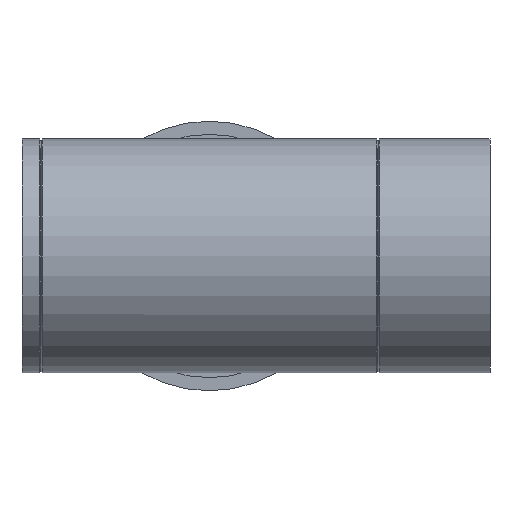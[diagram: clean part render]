
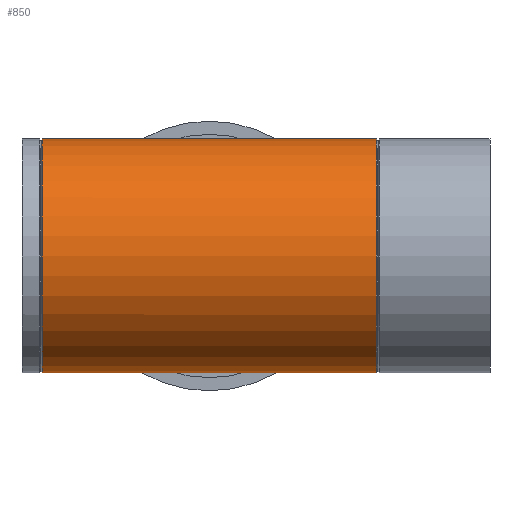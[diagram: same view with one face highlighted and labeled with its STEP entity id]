
A CAD part, left-side view. The second image highlights one B-rep face of the part: STEP entity #850.
In plain terms, the highlighted cylindrical face has radius 62.5 mm (diameter 125 mm), a full revolution.
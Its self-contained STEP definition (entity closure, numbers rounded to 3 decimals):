
#127=B_SPLINE_CURVE_WITH_KNOTS($,3,(#1335,#1336,#1337,#1338,#1339,#1340,
#1341,#1342,#1343,#1344,#1345,#1346,#1347,#1348,#1349,#1350,#1351,#1352,
#1353,#1354,#1355,#1356,#1357,#1358,#1359,#1360,#1361,#1362,#1363,#1364,
#1365,#1366,#1367,#1368,#1369,#1370,#1371,#1372,#1373,#1374,#1375,#1376,
#1377,#1378,#1379,#1380,#1381,#1382,#1383,#1384,#1385,#1386,#1387,#1388,
#1389,#1390,#1391,#1392,#1393,#1394,#1395,#1396,#1397,#1398,#1399,#1400),
 .UNSPECIFIED.,.T.,.F.,(4,2,2,2,2,2,2,2,2,2,2,2,2,2,2,2,2,2,2,2,2,2,2,2,
2,2,2,2,2,2,2,2,4),(0.,1.179,2.358,3.537,
4.717,5.825,6.933,8.041,9.149,
10.257,11.366,12.474,13.582,14.761,
15.94,17.119,18.298,19.478,20.657,
21.836,23.015,24.123,25.231,26.339,
27.448,28.556,29.664,30.772,31.88,
33.059,34.239,35.418,36.597),
 .UNSPECIFIED.);
#130=CYLINDRICAL_SURFACE($,#920,62.5);
#163=FACE_BOUND($,#260,.T.);
#164=FACE_BOUND($,#261,.T.);
#165=FACE_BOUND($,#262,.T.);
#260=EDGE_LOOP($,(#589));
#261=EDGE_LOOP($,(#590));
#262=EDGE_LOOP($,(#591));
#344=CIRCLE($,#912,62.5);
#346=CIRCLE($,#915,62.5);
#403=VERTEX_POINT($,#1320);
#405=VERTEX_POINT($,#1325);
#408=VERTEX_POINT($,#1334);
#480=EDGE_CURVE($,#403,#403,#344,.T.);
#482=EDGE_CURVE($,#405,#405,#346,.T.);
#485=EDGE_CURVE($,#408,#408,#127,.T.);
#589=ORIENTED_EDGE($,*,*,#485,.T.);
#590=ORIENTED_EDGE($,*,*,#482,.T.);
#591=ORIENTED_EDGE($,*,*,#480,.T.);
#850=ADVANCED_FACE($,(#163,#164,#165),#130,.T.);
#912=AXIS2_PLACEMENT_3D($,#1321,#1039,#1040);
#915=AXIS2_PLACEMENT_3D($,#1326,#1045,#1046);
#920=AXIS2_PLACEMENT_3D($,#1333,#1055,#1056);
#1039=DIRECTION('center_axis',(0.,1.,0.));
#1040=DIRECTION('ref_axis',(1.,0.,0.));
#1045=DIRECTION('center_axis',(0.,-1.,0.));
#1046=DIRECTION('ref_axis',(1.,0.,0.));
#1055=DIRECTION('center_axis',(0.,1.,0.));
#1056=DIRECTION('ref_axis',(1.,0.,0.));
#1320=CARTESIAN_POINT('',(0.,60.722,62.5));
#1321=CARTESIAN_POINT('Origin',(0.,60.722,0.));
#1325=CARTESIAN_POINT('',(0.,239.278,62.5));
#1326=CARTESIAN_POINT('Origin',(0.,239.278,0.));
#1333=CARTESIAN_POINT('Origin',(0.,0.,0.));
#1334=CARTESIAN_POINT('',(29.686,150.,55.));
#1335=CARTESIAN_POINT('Ctrl Pts',(29.686,150.,55.));
#1336=CARTESIAN_POINT('Ctrl Pts',(29.686,153.93,55.));
#1337=CARTESIAN_POINT('Ctrl Pts',(30.478,157.676,54.585));
#1338=CARTESIAN_POINT('Ctrl Pts',(33.022,164.848,53.084));
#1339=CARTESIAN_POINT('Ctrl Pts',(34.761,168.278,51.996));
#1340=CARTESIAN_POINT('Ctrl Pts',(38.612,174.832,49.204));
#1341=CARTESIAN_POINT('Ctrl Pts',(40.724,177.951,47.498));
#1342=CARTESIAN_POINT('Ctrl Pts',(44.917,183.77,43.554));
#1343=CARTESIAN_POINT('Ctrl Pts',(47.,186.468,41.314));
#1344=CARTESIAN_POINT('Ctrl Pts',(50.736,191.168,36.614));
#1345=CARTESIAN_POINT('Ctrl Pts',(52.54,193.364,34.012));
#1346=CARTESIAN_POINT('Ctrl Pts',(55.853,197.323,28.245));
#1347=CARTESIAN_POINT('Ctrl Pts',(57.361,199.087,25.078));
#1348=CARTESIAN_POINT('Ctrl Pts',(59.855,201.98,18.344));
#1349=CARTESIAN_POINT('Ctrl Pts',(60.844,203.112,14.77));
#1350=CARTESIAN_POINT('Ctrl Pts',(62.167,204.622,7.444));
#1351=CARTESIAN_POINT('Ctrl Pts',(62.5,205.,3.694));
#1352=CARTESIAN_POINT('Ctrl Pts',(62.5,205.,-3.694));
#1353=CARTESIAN_POINT('Ctrl Pts',(62.167,204.622,-7.444));
#1354=CARTESIAN_POINT('Ctrl Pts',(60.844,203.112,-14.77));
#1355=CARTESIAN_POINT('Ctrl Pts',(59.855,201.98,-18.344));
#1356=CARTESIAN_POINT('Ctrl Pts',(57.361,199.087,-25.078));
#1357=CARTESIAN_POINT('Ctrl Pts',(55.853,197.323,-28.245));
#1358=CARTESIAN_POINT('Ctrl Pts',(52.54,193.364,-34.012));
#1359=CARTESIAN_POINT('Ctrl Pts',(50.736,191.168,-36.614));
#1360=CARTESIAN_POINT('Ctrl Pts',(47.,186.468,-41.314));
#1361=CARTESIAN_POINT('Ctrl Pts',(44.917,183.77,-43.554));
#1362=CARTESIAN_POINT('Ctrl Pts',(40.724,177.951,-47.498));
#1363=CARTESIAN_POINT('Ctrl Pts',(38.612,174.832,-49.204));
#1364=CARTESIAN_POINT('Ctrl Pts',(34.761,168.278,-51.996));
#1365=CARTESIAN_POINT('Ctrl Pts',(33.022,164.848,-53.084));
#1366=CARTESIAN_POINT('Ctrl Pts',(30.478,157.676,-54.585));
#1367=CARTESIAN_POINT('Ctrl Pts',(29.686,153.93,-55.));
#1368=CARTESIAN_POINT('Ctrl Pts',(29.686,146.07,-55.));
#1369=CARTESIAN_POINT('Ctrl Pts',(30.478,142.324,-54.585));
#1370=CARTESIAN_POINT('Ctrl Pts',(33.022,135.152,-53.084));
#1371=CARTESIAN_POINT('Ctrl Pts',(34.761,131.722,-51.996));
#1372=CARTESIAN_POINT('Ctrl Pts',(38.612,125.168,-49.204));
#1373=CARTESIAN_POINT('Ctrl Pts',(40.724,122.049,-47.498));
#1374=CARTESIAN_POINT('Ctrl Pts',(44.917,116.23,-43.554));
#1375=CARTESIAN_POINT('Ctrl Pts',(47.,113.532,-41.314));
#1376=CARTESIAN_POINT('Ctrl Pts',(50.736,108.832,-36.614));
#1377=CARTESIAN_POINT('Ctrl Pts',(52.54,106.636,-34.012));
#1378=CARTESIAN_POINT('Ctrl Pts',(55.853,102.677,-28.245));
#1379=CARTESIAN_POINT('Ctrl Pts',(57.361,100.913,-25.078));
#1380=CARTESIAN_POINT('Ctrl Pts',(59.855,98.02,-18.344));
#1381=CARTESIAN_POINT('Ctrl Pts',(60.844,96.888,-14.77));
#1382=CARTESIAN_POINT('Ctrl Pts',(62.167,95.378,-7.444));
#1383=CARTESIAN_POINT('Ctrl Pts',(62.5,95.,-3.694));
#1384=CARTESIAN_POINT('Ctrl Pts',(62.5,95.,3.694));
#1385=CARTESIAN_POINT('Ctrl Pts',(62.167,95.378,7.444));
#1386=CARTESIAN_POINT('Ctrl Pts',(60.844,96.888,14.77));
#1387=CARTESIAN_POINT('Ctrl Pts',(59.855,98.02,18.344));
#1388=CARTESIAN_POINT('Ctrl Pts',(57.361,100.913,25.078));
#1389=CARTESIAN_POINT('Ctrl Pts',(55.853,102.677,28.245));
#1390=CARTESIAN_POINT('Ctrl Pts',(52.54,106.636,34.012));
#1391=CARTESIAN_POINT('Ctrl Pts',(50.736,108.832,36.614));
#1392=CARTESIAN_POINT('Ctrl Pts',(47.,113.532,41.314));
#1393=CARTESIAN_POINT('Ctrl Pts',(44.917,116.23,43.554));
#1394=CARTESIAN_POINT('Ctrl Pts',(40.724,122.049,47.498));
#1395=CARTESIAN_POINT('Ctrl Pts',(38.612,125.168,49.204));
#1396=CARTESIAN_POINT('Ctrl Pts',(34.761,131.722,51.996));
#1397=CARTESIAN_POINT('Ctrl Pts',(33.022,135.152,53.084));
#1398=CARTESIAN_POINT('Ctrl Pts',(30.478,142.324,54.585));
#1399=CARTESIAN_POINT('Ctrl Pts',(29.686,146.07,55.));
#1400=CARTESIAN_POINT('Ctrl Pts',(29.686,150.,55.));
